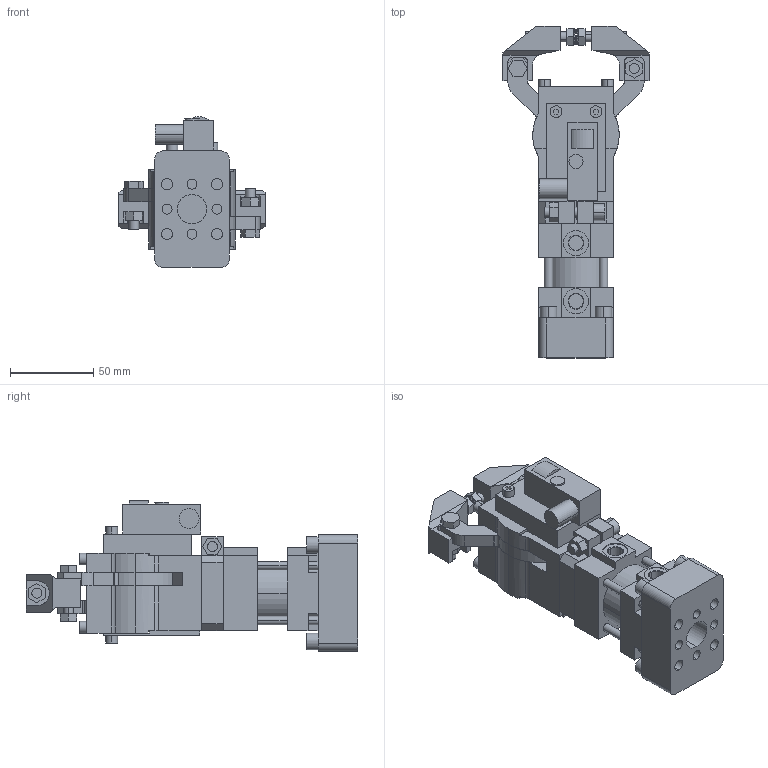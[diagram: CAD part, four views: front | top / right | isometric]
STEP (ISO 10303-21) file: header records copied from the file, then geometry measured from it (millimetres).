
FILE_DESCRIPTION (( 'STEP AP214' ), '1' );
FILE_NAME ('b32_b1sx_pla___a_c.STEP', '2018-05-08T12:55:27', ( 'vepadmin' ), ( 'Hewlett-Packard Company' ), 'SwSTEP 2.0', 'SolidWorks 2018', '' );
FILE_SCHEMA (( 'AUTOMOTIVE_DESIGN' ));
Length unit declared in the file: millimetre
Products named in the file (11): attacco_c_b32; gruppo_cilindro_piastra_c_b32; distanziale_b32; piedino_zigrinato_M6x25; riparo_micro_b32; blocchetto_p&f_90; scatola_micro_b32; tassello_b1_b32b; leva_b32b; gruppo_montante_b32b; b32_b1sx_pla___a_c
Assembly tree (13 placements, depth 2):
  b32_b1sx_pla___a_c
    gruppo_montante_b32b
    leva_b32b  x2
    tassello_b1_b32b  x2
    scatola_micro_b32
    blocchetto_p&f_90
    riparo_micro_b32
    piedino_zigrinato_M6x25  x2
    distanziale_b32
    gruppo_cilindro_piastra_c_b32
    attacco_c_b32
Bounding box: 88 x 199.5 x 90.6 mm (x, y, z)
Volume: 409693.8 mm3; surface area: 112289.1 mm2
Topology: 13 solids, 13 shells, 854 faces, 2067 edges, 1358 vertices
Faces by surface type: plane 610, cylinder 238, cone 6
Entity records: 19580 total; most frequent: CARTESIAN_POINT 3421, DIRECTION 3225, ORIENTED_EDGE 3150, EDGE_CURVE 1575, VECTOR 1151, LINE 1151, VERTEX_POINT 1037, AXIS2_PLACEMENT_3D 1037
